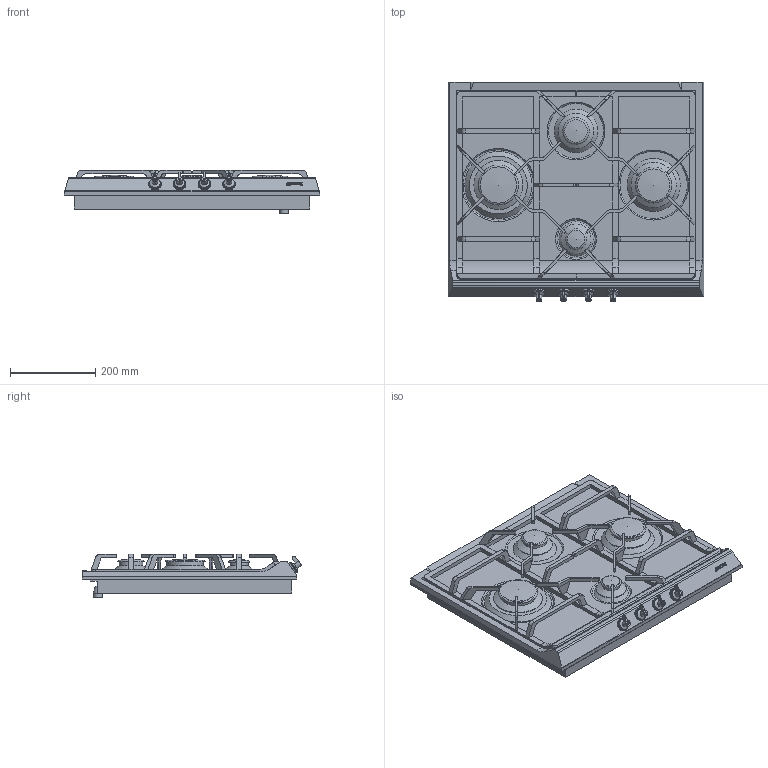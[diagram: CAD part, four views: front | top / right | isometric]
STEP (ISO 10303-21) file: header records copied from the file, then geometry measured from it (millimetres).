
FILE_DESCRIPTION(/* description */ (''),/* implementation_level */ '2;1');
FILE_NAME(/* name */ 'piano se60sgh3.stp',/* time_stamp */ '2018-03-26T10:56:52+02:00',/* author */ (''),/* organization */ (''),/* preprocessor_version */ 'ST-DEVELOPER v16',/* originating_system */ 'SIEMENS PLM Software NX 11.0',/* authorisation */ '');
FILE_SCHEMA (('AUTOMOTIVE_DESIGN { 1 0 10303 214 3 1 1 1 }'));
Length unit declared in the file: millimetre
Products named in the file (1): gobb1F0C41ED6qs0
Bounding box: 600 x 515.74 x 102.2 mm (x, y, z)
Volume: 14196411.7 mm3; surface area: 1761348 mm2
Topology: 29 solids, 30 shells, 610 faces, 1548 edges, 986 vertices
Faces by surface type: plane 410, cylinder 148, torus 17, cone 16, extrusion 11, sphere 8
Full cylindrical faces by diameter (mm): 3.37 x6, 6 x4, 8 x4, 13.5 x4, 20.5 x2, 23 x4, 27 x4, 29 x4, 42 x1, 43 x1, 55 x1, 56 x1, 70.5 x1, 77.5 x1, 78.5 x1, 83 x1, 87 x1, 88 x1, 106 x1, 115 x1
Entity records: 17902 total; most frequent: CARTESIAN_POINT 3323, DIRECTION 2969, ORIENTED_EDGE 2791, EDGE_CURVE 1435, VECTOR 1067, LINE 1056, VERTEX_POINT 959, AXIS2_PLACEMENT_3D 951
